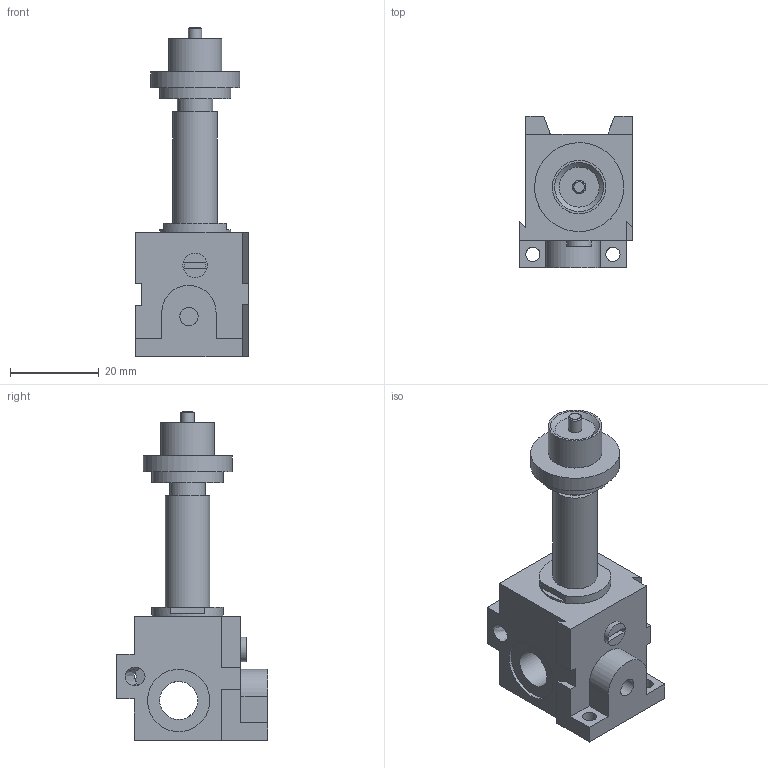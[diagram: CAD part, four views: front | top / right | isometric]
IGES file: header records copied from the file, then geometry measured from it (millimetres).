
Global section: file name: 355_M1-1; native system: Autodesk Inventor 2014; preprocessor: unknown; organization: Pneumax S.p.A.; date: 20161004.153106; units: millimetre
Bounding box: 25.4 x 34 x 74 mm (x, y, z)
Volume: 19282.9 mm3; surface area: 7921.8 mm2
Topology: 1 solids, 1 shells, 80 faces, 219 edges, 154 vertices
Faces by surface type: bspline 80
